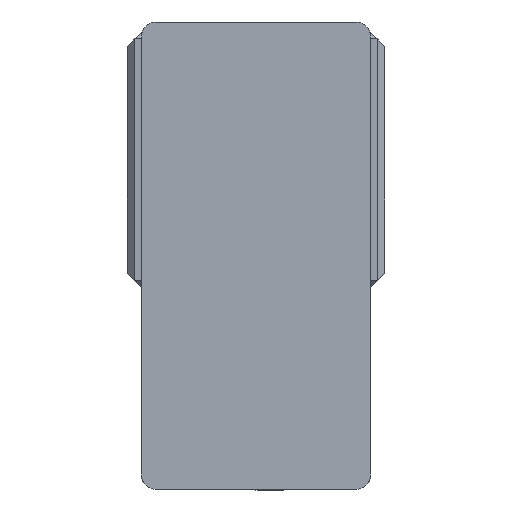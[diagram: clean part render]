
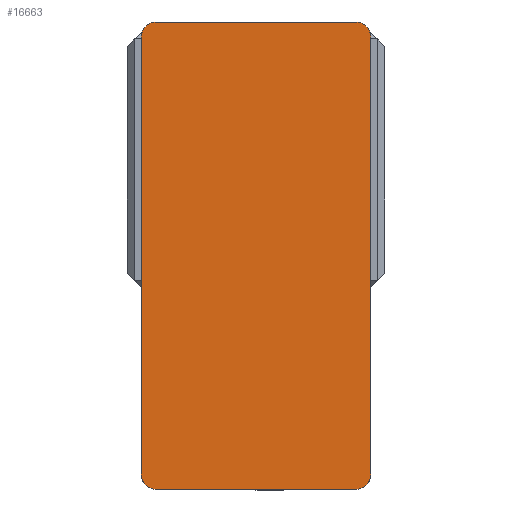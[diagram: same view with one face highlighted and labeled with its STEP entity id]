
A CAD part, left-side view. The second image highlights one B-rep face of the part: STEP entity #16663.
In plain terms, the highlighted planar face has unit normal (-1, 0, 0) as drawn and (0, 0, 1) by its records, which use the part's own axes.
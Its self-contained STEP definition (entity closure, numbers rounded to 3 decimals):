
#273 = ORIENTED_EDGE ( 'NONE', *, *, #16787, .T. ) ;
#905 = CARTESIAN_POINT ( 'NONE',  ( -65., -152.5, 105. ) ) ;
#1025 = ORIENTED_EDGE ( 'NONE', *, *, #2791, .T. ) ;
#1086 = CARTESIAN_POINT ( 'NONE',  ( -65., -142.5, 105. ) ) ;
#1281 = DIRECTION ( 'NONE',  ( 0., 1., 0. ) ) ;
#1294 = CARTESIAN_POINT ( 'NONE',  ( -75., 152.5, 105. ) ) ;
#1727 = VERTEX_POINT ( 'NONE', #8774 ) ;
#2387 = CARTESIAN_POINT ( 'NONE',  ( 65., 142.5, 105. ) ) ;
#2488 = EDGE_CURVE ( 'NONE', #16096, #11479, #8043, .T. ) ;
#2791 = EDGE_CURVE ( 'NONE', #14339, #16096, #5214, .T. ) ;
#2855 = DIRECTION ( 'NONE',  ( 1., 0., 0. ) ) ;
#2947 = EDGE_LOOP ( 'NONE', ( #4810, #9649, #18948, #22487, #1025, #19761, #16799, #273 ) ) ;
#3203 = EDGE_CURVE ( 'NONE', #4662, #14339, #6065, .T. ) ;
#3397 = LINE ( 'NONE', #16909, #12252 ) ;
#4174 = DIRECTION ( 'NONE',  ( 1., 0., 0. ) ) ;
#4343 = CARTESIAN_POINT ( 'NONE',  ( -65., 142.5, 105. ) ) ;
#4452 = CARTESIAN_POINT ( 'NONE',  ( -75., 142.5, 105. ) ) ;
#4662 = VERTEX_POINT ( 'NONE', #4731 ) ;
#4731 = CARTESIAN_POINT ( 'NONE',  ( 75., 142.5, 105. ) ) ;
#4810 = ORIENTED_EDGE ( 'NONE', *, *, #5265, .T. ) ;
#4887 = VECTOR ( 'NONE', #14755, 1000. ) ;
#5214 = LINE ( 'NONE', #1294, #5794 ) ;
#5265 = EDGE_CURVE ( 'NONE', #17414, #15788, #14273, .T. ) ;
#5647 = CIRCLE ( 'NONE', #17234, 10. ) ;
#5794 = VECTOR ( 'NONE', #13628, 1000. ) ;
#6004 = CARTESIAN_POINT ( 'NONE',  ( -75., -152.5, 105. ) ) ;
#6065 = CIRCLE ( 'NONE', #16446, 10. ) ;
#6143 = DIRECTION ( 'NONE',  ( 1., 0., 0. ) ) ;
#6198 = EDGE_CURVE ( 'NONE', #15788, #1727, #11526, .T. ) ;
#8043 = CIRCLE ( 'NONE', #8903, 10. ) ;
#8697 = CARTESIAN_POINT ( 'NONE',  ( 65., -142.5, 105. ) ) ;
#8774 = CARTESIAN_POINT ( 'NONE',  ( 75., -142.5, 105. ) ) ;
#8903 = AXIS2_PLACEMENT_3D ( 'NONE', #4343, #16648, #6143 ) ;
#9649 = ORIENTED_EDGE ( 'NONE', *, *, #6198, .T. ) ;
#9844 = CARTESIAN_POINT ( 'NONE',  ( 65., 152.5, 105. ) ) ;
#10445 = DIRECTION ( 'NONE',  ( 1., 0., 0. ) ) ;
#11172 = CARTESIAN_POINT ( 'NONE',  ( 65., -152.5, 105. ) ) ;
#11436 = FACE_OUTER_BOUND ( 'NONE', #2947, .T. ) ;
#11479 = VERTEX_POINT ( 'NONE', #4452 ) ;
#11526 = CIRCLE ( 'NONE', #19727, 10. ) ;
#11565 = EDGE_CURVE ( 'NONE', #11479, #19069, #3397, .T. ) ;
#11883 = DIRECTION ( 'NONE',  ( 1., 0., 0. ) ) ;
#12252 = VECTOR ( 'NONE', #16768, 1000. ) ;
#12564 = AXIS2_PLACEMENT_3D ( 'NONE', #20648, #22404, #11883 ) ;
#13430 = DIRECTION ( 'NONE',  ( 0., 0., 1. ) ) ;
#13615 = CARTESIAN_POINT ( 'NONE',  ( 75., 152.5, 105. ) ) ;
#13628 = DIRECTION ( 'NONE',  ( -1., 0., 0. ) ) ;
#13632 = CARTESIAN_POINT ( 'NONE',  ( -75., -142.5, 105. ) ) ;
#14273 = LINE ( 'NONE', #6004, #4887 ) ;
#14339 = VERTEX_POINT ( 'NONE', #9844 ) ;
#14723 = DIRECTION ( 'NONE',  ( 0., 0., 1. ) ) ;
#14755 = DIRECTION ( 'NONE',  ( 1., 0., 0. ) ) ;
#14985 = VECTOR ( 'NONE', #1281, 1000. ) ;
#15788 = VERTEX_POINT ( 'NONE', #11172 ) ;
#16096 = VERTEX_POINT ( 'NONE', #20443 ) ;
#16446 = AXIS2_PLACEMENT_3D ( 'NONE', #2387, #14723, #4174 ) ;
#16648 = DIRECTION ( 'NONE',  ( 0., 0., 1. ) ) ;
#16663 = ADVANCED_FACE ( 'NONE', ( #11436 ), #18852, .T. ) ;
#16669 = EDGE_CURVE ( 'NONE', #1727, #4662, #19679, .T. ) ;
#16768 = DIRECTION ( 'NONE',  ( 0., -1., 0. ) ) ;
#16787 = EDGE_CURVE ( 'NONE', #19069, #17414, #5647, .T. ) ;
#16799 = ORIENTED_EDGE ( 'NONE', *, *, #11565, .T. ) ;
#16909 = CARTESIAN_POINT ( 'NONE',  ( -75., 152.5, 105. ) ) ;
#17234 = AXIS2_PLACEMENT_3D ( 'NONE', #1086, #13430, #2855 ) ;
#17414 = VERTEX_POINT ( 'NONE', #905 ) ;
#18852 = PLANE ( 'NONE',  #12564 ) ;
#18948 = ORIENTED_EDGE ( 'NONE', *, *, #16669, .T. ) ;
#19069 = VERTEX_POINT ( 'NONE', #13632 ) ;
#19679 = LINE ( 'NONE', #13615, #14985 ) ;
#19727 = AXIS2_PLACEMENT_3D ( 'NONE', #8697, #20982, #10445 ) ;
#19761 = ORIENTED_EDGE ( 'NONE', *, *, #2488, .T. ) ;
#20443 = CARTESIAN_POINT ( 'NONE',  ( -65., 152.5, 105. ) ) ;
#20648 = CARTESIAN_POINT ( 'NONE',  ( 0., 0., 105. ) ) ;
#20982 = DIRECTION ( 'NONE',  ( 0., 0., 1. ) ) ;
#22404 = DIRECTION ( 'NONE',  ( 0., 0., 1. ) ) ;
#22487 = ORIENTED_EDGE ( 'NONE', *, *, #3203, .T. ) ;
